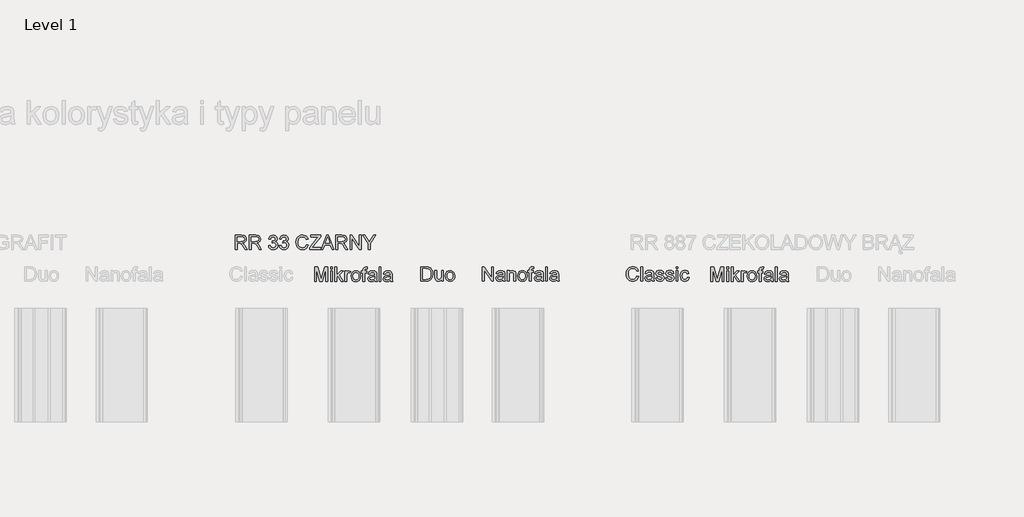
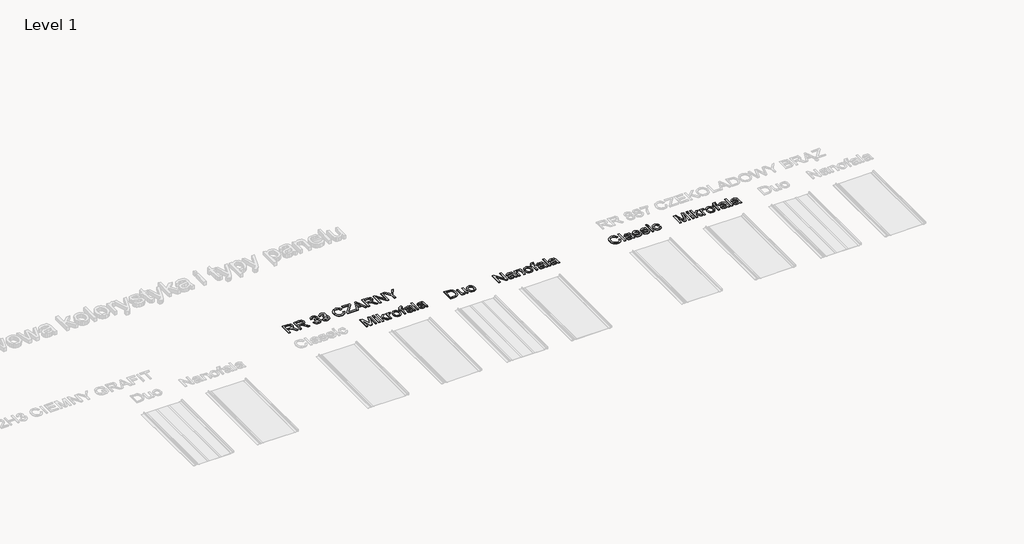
# One storey, part 19 of 22: 6 proxies.
"""IFC4 building model written with IfcOpenShell, lengths in millimetres."""

from ifc_helpers import new_model, si_unit, frame, origin, place, context, project, spatial, polyline, outline, extrude, element, save

model = new_model("IFC4")

# Units and contexts
model_context = context("Model", 3, world=origin())
ifc_project = project(units=[si_unit("LENGTHUNIT", "METRE", prefix="MILLI")], contexts=[model_context])

# Site, building, storey
site = spatial("IfcSite", under=ifc_project)
building = spatial("IfcBuilding", under=site)
storey = spatial("IfcBuildingStorey", under=building, Name="Level 1", Elevation=0.0)

# Proxies
placement = place(None, origin())
element("IfcBuildingElementProxy", 1, Name="150", ObjectType="150", at=placement, inside=storey, context=model_context, shape_type="SweptSolid", body=[
    extrude(outline(polyline([(-3695.6654959, 1124.718613), (-3695.6654959, 1275.4030782), (-3663.3654568, 1275.4030782), (-3632.4633692, 1169.1955462), (-3626.2093753, 1147.0122619), (-3619.4771347, 1171.0349562), (-3589.1636583, 1275.4030782), (-3556.7532546, 1275.4030782), (-3556.7532546, 1124.718613), (-3575.5888127, 1124.718613), (-3575.5888127, 1256.5675201), (-3613.44387, 1124.718613), (-3638.9380923, 1124.718613), (-3676.8299378, 1256.5675201), (-3676.8299378, 1124.718613), (-3695.6654959, 1124.718613)])), frame((0.0, 0.0, 600.0), z_axis=(0.0, 0.0, 1.0), x_axis=(1.0, 0.0, 0.0)), (0.0, 0.0, 1.0), 10.0),
    extrude(outline(polyline([(-3526.1454726, 1256.5675201), (-3526.1454726, 1275.4030782), (-3507.3099144, 1275.4030782), (-3507.3099144, 1256.5675201), (-3526.1454726, 1256.5675201)])), frame((0.0, 0.0, 600.0), z_axis=(0.0, 0.0, 1.0), x_axis=(1.0, 0.0, 0.0)), (0.0, 0.0, 1.0), 10.0),
    extrude(outline(polyline([(-3526.1454726, 1124.718613), (-3526.1454726, 1235.3775171), (-3507.3099144, 1235.3775171), (-3507.3099144, 1124.718613), (-3526.1454726, 1124.718613)])), frame((0.0, 0.0, 600.0), z_axis=(0.0, 0.0, 1.0), x_axis=(1.0, 0.0, 0.0)), (0.0, 0.0, 1.0), 10.0),
    extrude(outline(polyline([(-3479.0565772, 1124.718613), (-3479.0565772, 1275.4030782), (-3460.221019, 1275.4030782), (-3460.221019, 1194.4322511), (-3417.988166, 1235.3775171), (-3391.9421207, 1235.3775171), (-3434.7267968, 1193.9172163), (-3389.587676, 1124.718613), (-3411.5870193, 1124.718613), (-3448.228066, 1180.8206173), (-3460.221019, 1169.158758), (-3460.221019, 1124.718613), (-3479.0565772, 1124.718613)])), frame((0.0, 0.0, 600.0), z_axis=(0.0, 0.0, 1.0), x_axis=(1.0, 0.0, 0.0)), (0.0, 0.0, 1.0), 10.0),
    extrude(outline(polyline([(-3373.1065626, 1124.718613), (-3373.1065626, 1235.3775171), (-3356.6254492, 1235.3775171), (-3356.6254492, 1219.0067684), (-3344.9268017, 1234.0899302), (-3333.1545779, 1237.7319619), (-3314.2454433, 1231.9194264), (-3320.5362255, 1215.0336428), (-3333.7799773, 1218.8964038), (-3344.4301611, 1215.1807956), (-3351.2175839, 1204.8800997), (-3354.2710044, 1182.8807564), (-3354.2710044, 1124.718613), (-3373.1065626, 1124.718613)])), frame((0.0, 0.0, 600.0), z_axis=(0.0, 0.0, 1.0), x_axis=(1.0, 0.0, 0.0)), (0.0, 0.0, 1.0), 10.0),
    extrude(outline(polyline([(-3307.182109, 1180.0480651), (-3303.1078159, 1206.7287068), (-3290.8849367, 1225.4814915), (-3275.7833808, 1234.6693443), (-3257.7019807, 1237.7319619), (-3237.9145279, 1234.0025582), (-3222.1093977, 1222.814347), (-3211.748921, 1205.0502452), (-3208.2954287, 1181.5931694), (-3209.822139, 1162.5644732), (-3214.4022699, 1148.0791197), (-3221.902464, 1137.2311993), (-3232.1893643, 1129.1148028), (-3244.4076451, 1124.0518269), (-3257.7019807, 1122.3641682), (-3277.7285568, 1126.0797764), (-3293.5152929, 1137.2266008), (-3303.765405, 1155.3631832), (-3307.182109, 1180.0480651)]), holes=[polyline([(-3288.3465509, 1180.0848533), (-3286.1668501, 1163.0381213), (-3279.6277476, 1150.8934169), (-3269.7869042, 1143.623149), (-3257.7019807, 1141.1997264), (-3245.6722394, 1143.6369446), (-3235.8497902, 1150.9485992), (-3229.3106877, 1163.254252), (-3227.1309869, 1180.6734645), (-3229.3244833, 1197.2235557), (-3235.9049725, 1209.2027132), (-3245.7412173, 1216.4729811), (-3257.7019807, 1218.8964038), (-3269.7869042, 1216.4821782), (-3279.6277476, 1209.2395014), (-3286.1668501, 1197.1223882), (-3288.3465509, 1180.0848533)])]), frame((0.0, 0.0, 600.0), z_axis=(0.0, 0.0, 1.0), x_axis=(1.0, 0.0, 0.0)), (0.0, 0.0, 1.0), 10.0),
    extrude(outline(polyline([(-3182.3965363, 1124.718613), (-3182.3965363, 1216.541959), (-3198.8776497, 1216.541959), (-3198.8776497, 1235.3775171), (-3182.3965363, 1235.3775171), (-3182.3965363, 1246.5243416), (-3180.4099735, 1262.2329028), (-3170.7714652, 1273.4533036), (-3151.7887543, 1277.757523), (-3134.6086651, 1275.6973838), (-3137.3677801, 1258.039048), (-3148.2202989, 1258.9219648), (-3160.0844933, 1255.7949679), (-3163.5609781, 1244.1331086), (-3163.5609781, 1235.3775171), (-3142.3709752, 1235.3775171), (-3142.3709752, 1216.541959), (-3163.5609781, 1216.541959), (-3163.5609781, 1124.718613), (-3182.3965363, 1124.718613)])), frame((0.0, 0.0, 600.0), z_axis=(0.0, 0.0, 1.0), x_axis=(1.0, 0.0, 0.0)), (0.0, 0.0, 1.0), 10.0),
    extrude(outline(polyline([(-3055.2565187, 1138.8452816), (-3073.5218598, 1126.0797764), (-3093.7001872, 1122.3641682), (-3109.4409381, 1124.5990513), (-3121.0522136, 1131.3037007), (-3128.2121169, 1141.4848349), (-3130.5987514, 1154.1491726), (-3126.9935078, 1169.0483934), (-3117.5205464, 1179.8641241), (-3104.3319769, 1186.0445416), (-3088.0348045, 1188.8772329), (-3055.3668833, 1195.3519561), (-3055.2565187, 1199.5458108), (-3056.5533028, 1207.9519144), (-3060.4436549, 1213.4517502), (-3069.1440641, 1217.5352404), (-3081.2657758, 1218.8964038), (-3100.3220632, 1215.2727661), (-3109.4087484, 1202.4152904), (-3128.2443066, 1204.7697351), (-3120.0957204, 1223.1638349), (-3103.6881834, 1233.9427774), (-3078.8377546, 1237.7319619), (-3056.0106768, 1234.3842357), (-3043.1164129, 1225.9781322), (-3037.3406656, 1213.1942328), (-3036.4209606, 1196.7131194), (-3036.4209606, 1173.2790364), (-3035.4644674, 1140.5559329), (-3031.7120711, 1124.718613), (-3050.5476292, 1124.718613), (-3055.2565187, 1138.8452816)]), holes=[polyline([(-3055.2565187, 1176.5163979), (-3085.6435715, 1170.7406506), (-3101.8487734, 1167.68723), (-3109.1880192, 1162.7208231), (-3111.7631932, 1155.4735478), (-3106.1529928, 1145.2832165), (-3089.6902735, 1141.1997264), (-3070.6339861, 1145.7062808), (-3058.3467275, 1156.613982), (-3055.3668833, 1171.182109), (-3055.2565187, 1176.5163979)])]), frame((0.0, 0.0, 600.0), z_axis=(0.0, 0.0, 1.0), x_axis=(1.0, 0.0, 0.0)), (0.0, 0.0, 1.0), 10.0),
    extrude(outline(polyline([(-3010.5220681, 1124.718613), (-3010.5220681, 1275.4030782), (-2991.68651, 1275.4030782), (-2991.68651, 1124.718613), (-3010.5220681, 1124.718613)])), frame((0.0, 0.0, 600.0), z_axis=(0.0, 0.0, 1.0), x_axis=(1.0, 0.0, 0.0)), (0.0, 0.0, 1.0), 10.0),
    extrude(outline(polyline([(-2892.7998297, 1138.8452816), (-2911.0651707, 1126.0797764), (-2931.2434982, 1122.3641682), (-2946.984249, 1124.5990513), (-2958.5955245, 1131.3037007), (-2965.7554278, 1141.4848349), (-2968.1420623, 1154.1491726), (-2964.5368187, 1169.0483934), (-2955.0638574, 1179.8641241), (-2941.8752878, 1186.0445416), (-2925.5781154, 1188.8772329), (-2892.9101943, 1195.3519561), (-2892.7998297, 1199.5458108), (-2894.0966137, 1207.9519144), (-2897.9869658, 1213.4517502), (-2906.687375, 1217.5352404), (-2918.8090867, 1218.8964038), (-2937.8653741, 1215.2727661), (-2946.9520594, 1202.4152904), (-2965.7876175, 1204.7697351), (-2957.6390313, 1223.1638349), (-2941.2314943, 1233.9427774), (-2916.3810656, 1237.7319619), (-2893.5539878, 1234.3842357), (-2880.6597238, 1225.9781322), (-2874.8839765, 1213.1942328), (-2873.9642715, 1196.7131194), (-2873.9642715, 1173.2790364), (-2873.0077783, 1140.5559329), (-2869.255382, 1124.718613), (-2888.0909401, 1124.718613), (-2892.7998297, 1138.8452816)]), holes=[polyline([(-2892.7998297, 1176.5163979), (-2923.1868825, 1170.7406506), (-2939.3920844, 1167.68723), (-2946.7313302, 1162.7208231), (-2949.3065041, 1155.4735478), (-2943.6963037, 1145.2832165), (-2927.2335844, 1141.1997264), (-2908.1772971, 1145.7062808), (-2895.8900384, 1156.613982), (-2892.9101943, 1171.182109), (-2892.7998297, 1176.5163979)])]), frame((0.0, 0.0, 600.0), z_axis=(0.0, 0.0, 1.0), x_axis=(1.0, 0.0, 0.0)), (0.0, 0.0, 1.0), 10.0),
])
element("IfcBuildingElementProxy", 2, Name="150", ObjectType="150", at=placement, inside=storey, context=model_context, shape_type="SweptSolid", body=[
    extrude(outline(polyline([(-2567.5807075, 1127.8407532), (-2567.5807075, 1278.5252184), (-2515.5989816, 1278.5252184), (-2488.7068077, 1276.3547147), (-2466.5603116, 1265.5757722), (-2456.1400541, 1254.097854), (-2448.7180349, 1239.8240325), (-2444.2758598, 1223.0302195), (-2442.7951347, 1203.9923262), (-2446.8050485, 1173.5868793), (-2457.1057443, 1151.6427183), (-2470.864531, 1137.9759022), (-2488.8723546, 1130.4159272), (-2513.097384, 1127.8407532), (-2567.5807075, 1127.8407532)]), holes=[polyline([(-2548.7451493, 1146.6763114), (-2515.4150406, 1146.6763114), (-2491.1716171, 1149.3986381), (-2477.1921013, 1157.0873718), (-2465.7325771, 1175.7941713), (-2461.6306929, 1204.2866318), (-2463.6402483, 1224.8144471), (-2469.6689145, 1239.9711853), (-2478.5762573, 1250.3822458), (-2489.2218425, 1256.6730279), (-2515.9300754, 1259.6896603), (-2548.7451493, 1259.6896603), (-2548.7451493, 1146.6763114)])]), frame((0.0, 0.0, 600.0), z_axis=(0.0, 0.0, 1.0), x_axis=(1.0, 0.0, 0.0)), (0.0, 0.0, 1.0), 10.0),
    extrude(outline(polyline([(-2348.617344, 1127.8407532), (-2348.617344, 1146.8602524), (-2363.369412, 1130.8297944), (-2382.6096403, 1125.4863084), (-2400.3231584, 1129.2387048), (-2412.5368406, 1138.6564839), (-2418.1470411, 1152.5256351), (-2419.250687, 1170.0368181), (-2419.250687, 1238.4996574), (-2400.4151289, 1238.4996574), (-2400.4151289, 1178.9027741), (-2399.2746947, 1159.699334), (-2391.8250843, 1148.4237508), (-2377.7903862, 1144.3218666), (-2362.0634309, 1148.5157213), (-2351.6707645, 1159.9384573), (-2348.617344, 1180.9261251), (-2348.617344, 1238.4996574), (-2329.7817858, 1238.4996574), (-2329.7817858, 1127.8407532), (-2348.617344, 1127.8407532)])), frame((0.0, 0.0, 600.0), z_axis=(0.0, 0.0, 1.0), x_axis=(1.0, 0.0, 0.0)), (0.0, 0.0, 1.0), 10.0),
    extrude(outline(polyline([(-2308.5917829, 1183.1702053), (-2304.5174898, 1209.850847), (-2292.2946105, 1228.6036317), (-2277.1930546, 1237.7914845), (-2259.1116545, 1240.8541021), (-2239.3242017, 1237.1246984), (-2223.5190715, 1225.9364872), (-2213.1585948, 1208.1723854), (-2209.7051026, 1184.7153097), (-2211.2318129, 1165.6866135), (-2215.8119437, 1151.2012599), (-2223.3121379, 1140.3533396), (-2233.5990382, 1132.2369431), (-2245.8173189, 1127.1739671), (-2259.1116545, 1125.4863084), (-2279.1382307, 1129.2019166), (-2294.9249668, 1140.348741), (-2305.1750789, 1158.4853234), (-2308.5917829, 1183.1702053)]), holes=[polyline([(-2289.7562247, 1183.2069935), (-2287.5765239, 1166.1602615), (-2281.0374215, 1154.0155572), (-2271.1965781, 1146.7452892), (-2259.1116545, 1144.3218666), (-2247.0819133, 1146.7590848), (-2237.259464, 1154.0707395), (-2230.7203616, 1166.3763922), (-2228.5406607, 1183.7956047), (-2230.7341571, 1200.3456959), (-2237.3146463, 1212.3248534), (-2247.1508912, 1219.5951213), (-2259.1116545, 1222.018544), (-2271.1965781, 1219.6043184), (-2281.0374215, 1212.3616416), (-2287.5765239, 1200.2445284), (-2289.7562247, 1183.2069935)])]), frame((0.0, 0.0, 600.0), z_axis=(0.0, 0.0, 1.0), x_axis=(1.0, 0.0, 0.0)), (0.0, 0.0, 1.0), 10.0),
])
element("IfcBuildingElementProxy", 3, Name="150", ObjectType="150", at=placement, inside=storey, context=model_context, shape_type="SweptSolid", body=[
    extrude(outline(polyline([(-279.0085992, 1182.8181359), (-260.1730411, 1177.9620936), (-268.8642532, 1156.013334), (-282.5034782, 1139.9782776), (-300.4193314, 1130.1696239), (-321.9404281, 1126.9000726), (-343.7880201, 1129.3740791), (-361.1382547, 1136.7960983), (-374.4371888, 1148.908613), (-384.1308794, 1165.4541057), (-390.049181, 1184.9058662), (-392.0219482, 1205.7371842), (-389.7916636, 1227.7089364), (-383.1008098, 1246.6824503), (-372.2988747, 1262.0553191), (-357.7353462, 1273.2251362), (-340.4632865, 1280.0263546), (-321.5357579, 1282.2934274), (-300.8837824, 1279.3595685), (-283.8094593, 1270.5579918), (-270.8462175, 1256.4313231), (-262.5274859, 1237.5221886), (-281.363044, 1233.0340282), (-287.8929494, 1246.7698222), (-296.8140878, 1256.1921998), (-308.2368238, 1261.6414519), (-322.2715219, 1263.4578692), (-338.4491326, 1261.4437153), (-351.7388697, 1255.4012536), (-361.8234349, 1245.9650804), (-368.38553, 1233.7697922), (-373.18639, 1205.7739724), (-371.7654458, 1188.373154), (-367.5026132, 1173.3267804), (-360.2369438, 1161.2096672), (-349.8074892, 1152.59663), (-337.3040999, 1147.4508806), (-323.8166263, 1145.7356308), (-308.0942695, 1148.0716815), (-294.9930719, 1155.0798335), (-285.1016448, 1166.6865104), (-279.0085992, 1182.8181359)])), frame((0.0, 0.0, 600.0), z_axis=(0.0, 0.0, 1.0), x_axis=(1.0, 0.0, 0.0)), (0.0, 0.0, 1.0), 10.0),
    extrude(outline(polyline([(-236.6285934, 1129.2545174), (-236.6285934, 1279.9389826), (-217.7930352, 1279.9389826), (-217.7930352, 1129.2545174), (-236.6285934, 1129.2545174)])), frame((0.0, 0.0, 600.0), z_axis=(0.0, 0.0, 1.0), x_axis=(1.0, 0.0, 0.0)), (0.0, 0.0, 1.0), 10.0),
    extrude(outline(polyline([(-118.9063549, 1143.381186), (-137.171696, 1130.6156808), (-157.3500234, 1126.9000726), (-173.0907743, 1129.1349558), (-184.7020498, 1135.8396051), (-191.8619531, 1146.0207393), (-194.2485875, 1158.685077), (-190.643344, 1173.5842978), (-181.1703826, 1184.4000285), (-167.9818131, 1190.580446), (-151.6846407, 1193.4131374), (-119.0167195, 1199.8878605), (-118.9063549, 1204.0817152), (-120.203139, 1212.4878188), (-124.0934911, 1217.9876546), (-132.7939003, 1222.0711448), (-144.915612, 1223.4323082), (-163.9718993, 1219.8086705), (-173.0585846, 1206.9511948), (-191.8941428, 1209.3056396), (-183.7455566, 1227.6997393), (-167.3380196, 1238.4786818), (-142.4875908, 1242.2678663), (-119.660513, 1238.9201402), (-106.7662491, 1230.5140366), (-100.9905018, 1217.7301372), (-100.0707968, 1201.2490239), (-100.0707968, 1177.8149408), (-99.1143036, 1145.0918373), (-95.3619072, 1129.2545174), (-114.1974654, 1129.2545174), (-118.9063549, 1143.381186)]), holes=[polyline([(-118.9063549, 1181.0523023), (-149.2934077, 1175.276555), (-165.4986096, 1172.2231344), (-172.8378554, 1167.2567275), (-175.4130294, 1160.0094522), (-169.802829, 1149.8191209), (-153.3401097, 1145.7356308), (-134.2838223, 1150.2421852), (-121.9965637, 1161.1498864), (-119.0167195, 1175.7180134), (-118.9063549, 1181.0523023)])]), frame((0.0, 0.0, 600.0), z_axis=(0.0, 0.0, 1.0), x_axis=(1.0, 0.0, 0.0)), (0.0, 0.0, 1.0), 10.0),
    extrude(outline(polyline([(-81.2352386, 1162.2167442), (-62.3996805, 1164.5711889), (-59.4290334, 1156.5145732), (-53.6808772, 1150.5916731), (-33.7048849, 1145.7356308), (-14.5014447, 1150.1870029), (-8.2474508, 1160.6348516), (-9.8201463, 1165.4357116), (-14.5382329, 1169.0961375), (-33.9256141, 1174.4672146), (-62.2893159, 1183.6826586), (-74.668545, 1194.4432069), (-78.8807939, 1209.6367334), (-75.4962795, 1223.6714315), (-66.2624414, 1234.3951916), (-54.2878825, 1239.9686039), (-38.0826806, 1242.2678663), (-15.1636323, 1238.5706523), (-0.5955053, 1228.564262), (5.8792178, 1211.6600843), (-12.9563403, 1209.3056396), (-20.0380687, 1219.6983059), (-36.6111526, 1223.4323082), (-54.6373704, 1219.8638528), (-60.0452357, 1211.5497197), (-57.8011555, 1206.068278), (-50.7746094, 1201.9112115), (-34.5510134, 1197.9012977), (-6.9046815, 1189.0353416), (5.9344001, 1178.9921632), (10.5881074, 1162.6214144), (5.1250597, 1144.5951966), (-10.6386838, 1131.5169917), (-33.9624023, 1126.9000726), (-52.9543103, 1129.1257587), (-66.8142644, 1135.8028169), (-76.0664966, 1146.8576709), (-81.2352386, 1162.2167442)])), frame((0.0, 0.0, 600.0), z_axis=(0.0, 0.0, 1.0), x_axis=(1.0, 0.0, 0.0)), (0.0, 0.0, 1.0), 10.0),
    extrude(outline(polyline([(24.714776, 1162.2167442), (43.5503341, 1164.5711889), (46.5209812, 1156.5145732), (52.2691374, 1150.5916731), (72.2451298, 1145.7356308), (91.4485699, 1150.1870029), (97.7025638, 1160.6348516), (96.1298683, 1165.4357116), (91.4117817, 1169.0961375), (72.0244006, 1174.4672146), (43.6606987, 1183.6826586), (31.2814696, 1194.4432069), (27.0692207, 1209.6367334), (30.4537351, 1223.6714315), (39.6875732, 1234.3951916), (51.6621321, 1239.9686039), (67.867334, 1242.2678663), (90.7863823, 1238.5706523), (105.3545093, 1228.564262), (111.8292324, 1211.6600843), (92.9936743, 1209.3056396), (85.9119459, 1219.6983059), (69.338862, 1223.4323082), (51.3126442, 1219.8638528), (45.9047789, 1211.5497197), (48.1488591, 1206.068278), (55.1754052, 1201.9112115), (71.3990012, 1197.9012977), (99.0453331, 1189.0353416), (111.8844147, 1178.9921632), (116.538122, 1162.6214144), (111.0750743, 1144.5951966), (95.3113309, 1131.5169917), (71.9876124, 1126.9000726), (52.9957044, 1129.1257587), (39.1357502, 1135.8028169), (29.883518, 1146.8576709), (24.714776, 1162.2167442)])), frame((0.0, 0.0, 600.0), z_axis=(0.0, 0.0, 1.0), x_axis=(1.0, 0.0, 0.0)), (0.0, 0.0, 1.0), 10.0),
    extrude(outline(polyline([(137.7281249, 1261.1034245), (137.7281249, 1279.9389826), (156.5636831, 1279.9389826), (156.5636831, 1261.1034245), (137.7281249, 1261.1034245)])), frame((0.0, 0.0, 600.0), z_axis=(0.0, 0.0, 1.0), x_axis=(1.0, 0.0, 0.0)), (0.0, 0.0, 1.0), 10.0),
    extrude(outline(polyline([(137.7281249, 1129.2545174), (137.7281249, 1239.9134216), (156.5636831, 1239.9134216), (156.5636831, 1129.2545174), (137.7281249, 1129.2545174)])), frame((0.0, 0.0, 600.0), z_axis=(0.0, 0.0, 1.0), x_axis=(1.0, 0.0, 0.0)), (0.0, 0.0, 1.0), 10.0),
    extrude(outline(polyline([(255.4503634, 1169.2800785), (274.2859215, 1166.9256337), (269.034406, 1150.1732074), (259.1659715, 1137.5134682), (245.60952, 1129.5534215), (229.2939535, 1126.9000726), (209.2581803, 1130.6018852), (193.5910059, 1141.7073229), (183.4788495, 1159.7289422), (180.1081307, 1184.1792993), (181.547469, 1200.9409227), (185.865484, 1215.467663), (193.1311534, 1227.1985001), (203.4134551, 1235.572414), (215.7145094, 1240.5940032), (229.0364361, 1242.2678663), (244.9519309, 1239.9686039), (257.6760494, 1233.0708164), (266.8041214, 1221.9423861), (271.9314767, 1206.9511948), (253.0959186, 1204.59675), (244.3587212, 1218.7050245), (229.1835889, 1223.4323082), (217.0112934, 1221.1054546), (207.3497925, 1214.1248937), (201.0452148, 1202.1135465), (198.9436889, 1184.6943341), (200.9992295, 1167.0405968), (207.1658515, 1154.987863), (216.6526084, 1148.0486888), (228.6685541, 1145.7356308), (238.4220255, 1147.1795676), (246.4188604, 1151.5113781), (252.2359944, 1158.8414269), (255.4503634, 1169.2800785)])), frame((0.0, 0.0, 600.0), z_axis=(0.0, 0.0, 1.0), x_axis=(1.0, 0.0, 0.0)), (0.0, 0.0, 1.0), 10.0),
])
element("IfcBuildingElementProxy", 4, Name="150", ObjectType="150", at=placement, inside=storey, context=model_context, shape_type="SweptSolid", body=[
    extrude(outline(polyline([(504.3345041, 1124.718613), (504.3345041, 1275.4030782), (536.6345432, 1275.4030782), (567.5366308, 1169.1955462), (573.7906247, 1147.0122619), (580.5228653, 1171.0349562), (610.8363417, 1275.4030782), (643.2467454, 1275.4030782), (643.2467454, 1124.718613), (624.4111873, 1124.718613), (624.4111873, 1256.5675201), (586.55613, 1124.718613), (561.0619077, 1124.718613), (523.1700622, 1256.5675201), (523.1700622, 1124.718613), (504.3345041, 1124.718613)])), frame((0.0, 0.0, 600.0), z_axis=(0.0, 0.0, 1.0), x_axis=(1.0, 0.0, 0.0)), (0.0, 0.0, 1.0), 10.0),
    extrude(outline(polyline([(673.8545274, 1256.5675201), (673.8545274, 1275.4030782), (692.6900856, 1275.4030782), (692.6900856, 1256.5675201), (673.8545274, 1256.5675201)])), frame((0.0, 0.0, 600.0), z_axis=(0.0, 0.0, 1.0), x_axis=(1.0, 0.0, 0.0)), (0.0, 0.0, 1.0), 10.0),
    extrude(outline(polyline([(673.8545274, 1124.718613), (673.8545274, 1235.3775171), (692.6900856, 1235.3775171), (692.6900856, 1124.718613), (673.8545274, 1124.718613)])), frame((0.0, 0.0, 600.0), z_axis=(0.0, 0.0, 1.0), x_axis=(1.0, 0.0, 0.0)), (0.0, 0.0, 1.0), 10.0),
    extrude(outline(polyline([(720.9434228, 1124.718613), (720.9434228, 1275.4030782), (739.778981, 1275.4030782), (739.778981, 1194.4322511), (782.011834, 1235.3775171), (808.0578793, 1235.3775171), (765.2732032, 1193.9172163), (810.412324, 1124.718613), (788.4129807, 1124.718613), (751.771934, 1180.8206173), (739.778981, 1169.158758), (739.778981, 1124.718613), (720.9434228, 1124.718613)])), frame((0.0, 0.0, 600.0), z_axis=(0.0, 0.0, 1.0), x_axis=(1.0, 0.0, 0.0)), (0.0, 0.0, 1.0), 10.0),
    extrude(outline(polyline([(826.8934374, 1124.718613), (826.8934374, 1235.3775171), (843.3745508, 1235.3775171), (843.3745508, 1219.0067684), (855.0731983, 1234.0899302), (866.8454221, 1237.7319619), (885.7545567, 1231.9194264), (879.4637745, 1215.0336428), (866.2200227, 1218.8964038), (855.5698389, 1215.1807956), (848.7824161, 1204.8800997), (845.7289956, 1182.8807564), (845.7289956, 1124.718613), (826.8934374, 1124.718613)])), frame((0.0, 0.0, 600.0), z_axis=(0.0, 0.0, 1.0), x_axis=(1.0, 0.0, 0.0)), (0.0, 0.0, 1.0), 10.0),
    extrude(outline(polyline([(892.817891, 1180.0480651), (896.8921841, 1206.7287068), (909.1150633, 1225.4814915), (924.2166192, 1234.6693443), (942.2980193, 1237.7319619), (962.0854721, 1234.0025582), (977.8906023, 1222.814347), (988.251079, 1205.0502452), (991.7045713, 1181.5931694), (990.177861, 1162.5644732), (985.5977301, 1148.0791197), (978.097536, 1137.2311993), (967.8106357, 1129.1148028), (955.5923549, 1124.0518269), (942.2980193, 1122.3641682), (922.2714432, 1126.0797764), (906.4847071, 1137.2266008), (896.234595, 1155.3631832), (892.817891, 1180.0480651)]), holes=[polyline([(911.6534491, 1180.0848533), (913.8331499, 1163.0381213), (920.3722524, 1150.8934169), (930.2130958, 1143.623149), (942.2980193, 1141.1997264), (954.3277606, 1143.6369446), (964.1502098, 1150.9485992), (970.6893123, 1163.254252), (972.8690131, 1180.6734645), (970.6755167, 1197.2235557), (964.0950275, 1209.2027132), (954.2587827, 1216.4729811), (942.2980193, 1218.8964038), (930.2130958, 1216.4821782), (920.3722524, 1209.2395014), (913.8331499, 1197.1223882), (911.6534491, 1180.0848533)])]), frame((0.0, 0.0, 600.0), z_axis=(0.0, 0.0, 1.0), x_axis=(1.0, 0.0, 0.0)), (0.0, 0.0, 1.0), 10.0),
    extrude(outline(polyline([(1017.6034637, 1124.718613), (1017.6034637, 1216.541959), (1001.1223503, 1216.541959), (1001.1223503, 1235.3775171), (1017.6034637, 1235.3775171), (1017.6034637, 1246.5243416), (1019.5900265, 1262.2329028), (1029.2285348, 1273.4533036), (1048.2112457, 1277.757523), (1065.3913349, 1275.6973838), (1062.6322199, 1258.039048), (1051.7797011, 1258.9219648), (1039.9155067, 1255.7949679), (1036.4390219, 1244.1331086), (1036.4390219, 1235.3775171), (1057.6290248, 1235.3775171), (1057.6290248, 1216.541959), (1036.4390219, 1216.541959), (1036.4390219, 1124.718613), (1017.6034637, 1124.718613)])), frame((0.0, 0.0, 600.0), z_axis=(0.0, 0.0, 1.0), x_axis=(1.0, 0.0, 0.0)), (0.0, 0.0, 1.0), 10.0),
    extrude(outline(polyline([(1144.7434813, 1138.8452816), (1126.4781402, 1126.0797764), (1106.2998128, 1122.3641682), (1090.5590619, 1124.5990513), (1078.9477864, 1131.3037007), (1071.7878831, 1141.4848349), (1069.4012486, 1154.1491726), (1073.0064922, 1169.0483934), (1082.4794536, 1179.8641241), (1095.6680231, 1186.0445416), (1111.9651955, 1188.8772329), (1144.6331167, 1195.3519561), (1144.7434813, 1199.5458108), (1143.4466972, 1207.9519144), (1139.5563451, 1213.4517502), (1130.8559359, 1217.5352404), (1118.7342242, 1218.8964038), (1099.6779368, 1215.2727661), (1090.5912516, 1202.4152904), (1071.7556934, 1204.7697351), (1079.9042796, 1223.1638349), (1096.3118166, 1233.9427774), (1121.1622454, 1237.7319619), (1143.9893232, 1234.3842357), (1156.8835871, 1225.9781322), (1162.6593344, 1213.1942328), (1163.5790394, 1196.7131194), (1163.5790394, 1173.2790364), (1164.5355326, 1140.5559329), (1168.2879289, 1124.718613), (1149.4523708, 1124.718613), (1144.7434813, 1138.8452816)]), holes=[polyline([(1144.7434813, 1176.5163979), (1114.3564285, 1170.7406506), (1098.1512266, 1167.68723), (1090.8119808, 1162.7208231), (1088.2368068, 1155.4735478), (1093.8470072, 1145.2832165), (1110.3097265, 1141.1997264), (1129.3660139, 1145.7062808), (1141.6532725, 1156.613982), (1144.6331167, 1171.182109), (1144.7434813, 1176.5163979)])]), frame((0.0, 0.0, 600.0), z_axis=(0.0, 0.0, 1.0), x_axis=(1.0, 0.0, 0.0)), (0.0, 0.0, 1.0), 10.0),
    extrude(outline(polyline([(1189.4779319, 1124.718613), (1189.4779319, 1275.4030782), (1208.31349, 1275.4030782), (1208.31349, 1124.718613), (1189.4779319, 1124.718613)])), frame((0.0, 0.0, 600.0), z_axis=(0.0, 0.0, 1.0), x_axis=(1.0, 0.0, 0.0)), (0.0, 0.0, 1.0), 10.0),
    extrude(outline(polyline([(1307.2001703, 1138.8452816), (1288.9348293, 1126.0797764), (1268.7565018, 1122.3641682), (1253.015751, 1124.5990513), (1241.4044755, 1131.3037007), (1234.2445722, 1141.4848349), (1231.8579377, 1154.1491726), (1235.4631813, 1169.0483934), (1244.9361426, 1179.8641241), (1258.1247122, 1186.0445416), (1274.4218846, 1188.8772329), (1307.0898057, 1195.3519561), (1307.2001703, 1199.5458108), (1305.9033863, 1207.9519144), (1302.0130342, 1213.4517502), (1293.312625, 1217.5352404), (1281.1909133, 1218.8964038), (1262.1346259, 1215.2727661), (1253.0479406, 1202.4152904), (1234.2123825, 1204.7697351), (1242.3609687, 1223.1638349), (1258.7685057, 1233.9427774), (1283.6189344, 1237.7319619), (1306.4460122, 1234.3842357), (1319.3402762, 1225.9781322), (1325.1160235, 1213.1942328), (1326.0357285, 1196.7131194), (1326.0357285, 1173.2790364), (1326.9922217, 1140.5559329), (1330.744618, 1124.718613), (1311.9090599, 1124.718613), (1307.2001703, 1138.8452816)]), holes=[polyline([(1307.2001703, 1176.5163979), (1276.8131175, 1170.7406506), (1260.6079156, 1167.68723), (1253.2686698, 1162.7208231), (1250.6934959, 1155.4735478), (1256.3036963, 1145.2832165), (1272.7664156, 1141.1997264), (1291.8227029, 1145.7062808), (1304.1099616, 1156.613982), (1307.0898057, 1171.182109), (1307.2001703, 1176.5163979)])]), frame((0.0, 0.0, 600.0), z_axis=(0.0, 0.0, 1.0), x_axis=(1.0, 0.0, 0.0)), (0.0, 0.0, 1.0), 10.0),
])
element("IfcBuildingElementProxy", 5, Name="150", ObjectType="150", at=placement, inside=storey, context=model_context, shape_type="SweptSolid", body=[
    extrude(outline(polyline([(-1916.7806572, 1127.8407532), (-1916.7806572, 1278.5252184), (-1896.6207239, 1278.5252184), (-1817.8939769, 1159.147511), (-1817.8939769, 1278.5252184), (-1799.0584188, 1278.5252184), (-1799.0584188, 1127.8407532), (-1819.2183521, 1127.8407532), (-1897.9450991, 1247.2552488), (-1897.9450991, 1127.8407532), (-1916.7806572, 1127.8407532)])), frame((0.0, 0.0, 600.0), z_axis=(0.0, 0.0, 1.0), x_axis=(1.0, 0.0, 0.0)), (0.0, 0.0, 1.0), 10.0),
    extrude(outline(polyline([(-1697.8172937, 1141.9674218), (-1716.0826347, 1129.2019166), (-1736.2609622, 1125.4863084), (-1752.001713, 1127.7211916), (-1763.6129885, 1134.4258409), (-1770.7728919, 1144.6069751), (-1773.1595263, 1157.2713128), (-1769.5542827, 1172.1705336), (-1760.0813214, 1182.9862643), (-1746.8927518, 1189.1666818), (-1730.5955795, 1191.9993732), (-1697.9276583, 1198.4740963), (-1697.8172937, 1202.667951), (-1699.1140777, 1211.0740546), (-1703.0044298, 1216.5738904), (-1711.704839, 1220.6573806), (-1723.8265507, 1222.018544), (-1742.8828381, 1218.3949063), (-1751.9695234, 1205.5374306), (-1770.8050815, 1207.8918754), (-1762.6564953, 1226.2859751), (-1746.2489583, 1237.0649176), (-1721.3985296, 1240.8541021), (-1698.5714518, 1237.506376), (-1685.6771878, 1229.1002724), (-1679.9014405, 1216.316373), (-1678.9817355, 1199.8352597), (-1678.9817355, 1176.4011766), (-1678.0252423, 1143.6780731), (-1674.272846, 1127.8407532), (-1693.1084041, 1127.8407532), (-1697.8172937, 1141.9674218)]), holes=[polyline([(-1697.8172937, 1179.6385381), (-1728.2043465, 1173.8627908), (-1744.4095484, 1170.8093702), (-1751.7487942, 1165.8429633), (-1754.3239681, 1158.595688), (-1748.7137677, 1148.4053567), (-1732.2510484, 1144.3218666), (-1713.1947611, 1148.828421), (-1700.9075024, 1159.7361222), (-1697.9276583, 1174.3042492), (-1697.8172937, 1179.6385381)])]), frame((0.0, 0.0, 600.0), z_axis=(0.0, 0.0, 1.0), x_axis=(1.0, 0.0, 0.0)), (0.0, 0.0, 1.0), 10.0),
    extrude(outline(polyline([(-1653.0828431, 1127.8407532), (-1653.0828431, 1238.4996574), (-1634.2472849, 1238.4996574), (-1634.2472849, 1223.0486136), (-1619.8447048, 1236.40273), (-1600.1814122, 1240.8541021), (-1582.3943177, 1237.2672527), (-1570.2542119, 1227.8494736), (-1564.6072232, 1213.9987165), (-1563.6139418, 1195.7885577), (-1563.6139418, 1127.8407532), (-1582.4495, 1127.8407532), (-1582.4495, 1193.250172), (-1584.6200038, 1209.9152263), (-1592.2903434, 1218.7260001), (-1605.2213955, 1222.018544), (-1616.2532568, 1220.1699369), (-1625.6572403, 1214.6241159), (-1632.0997738, 1203.9095528), (-1634.2472849, 1186.5547196), (-1634.2472849, 1127.8407532), (-1653.0828431, 1127.8407532)])), frame((0.0, 0.0, 600.0), z_axis=(0.0, 0.0, 1.0), x_axis=(1.0, 0.0, 0.0)), (0.0, 0.0, 1.0), 10.0),
    extrude(outline(polyline([(-1542.4239389, 1183.1702053), (-1538.3496458, 1209.850847), (-1526.1267665, 1228.6036317), (-1511.0252106, 1237.7914845), (-1492.9438106, 1240.8541021), (-1473.1563578, 1237.1246984), (-1457.3512275, 1225.9364872), (-1446.9907508, 1208.1723854), (-1443.5372586, 1184.7153097), (-1445.0639689, 1165.6866135), (-1449.6440997, 1151.2012599), (-1457.1442939, 1140.3533396), (-1467.4311942, 1132.2369431), (-1479.649475, 1127.1739671), (-1492.9438106, 1125.4863084), (-1512.9703867, 1129.2019166), (-1528.7571228, 1140.348741), (-1539.0072349, 1158.4853234), (-1542.4239389, 1183.1702053)]), holes=[polyline([(-1523.5883808, 1183.2069935), (-1521.4086799, 1166.1602615), (-1514.8695775, 1154.0155572), (-1505.0287341, 1146.7452892), (-1492.9438106, 1144.3218666), (-1480.9140693, 1146.7590848), (-1471.0916201, 1154.0707395), (-1464.5525176, 1166.3763922), (-1462.3728168, 1183.7956047), (-1464.5663132, 1200.3456959), (-1471.1468024, 1212.3248534), (-1480.9830472, 1219.5951213), (-1492.9438106, 1222.018544), (-1505.0287341, 1219.6043184), (-1514.8695775, 1212.3616416), (-1521.4086799, 1200.2445284), (-1523.5883808, 1183.2069935)])]), frame((0.0, 0.0, 600.0), z_axis=(0.0, 0.0, 1.0), x_axis=(1.0, 0.0, 0.0)), (0.0, 0.0, 1.0), 10.0),
    extrude(outline(polyline([(-1417.6383662, 1127.8407532), (-1417.6383662, 1219.6640992), (-1434.1194795, 1219.6640992), (-1434.1194795, 1238.4996574), (-1417.6383662, 1238.4996574), (-1417.6383662, 1249.6464818), (-1415.6518034, 1265.355043), (-1406.0132951, 1276.5754439), (-1387.0305842, 1280.8796632), (-1369.850495, 1278.819524), (-1372.6096099, 1261.1611883), (-1383.4621288, 1262.044105), (-1395.3263231, 1258.9171081), (-1398.802808, 1247.2552488), (-1398.802808, 1238.4996574), (-1377.6128051, 1238.4996574), (-1377.6128051, 1219.6640992), (-1398.802808, 1219.6640992), (-1398.802808, 1127.8407532), (-1417.6383662, 1127.8407532)])), frame((0.0, 0.0, 600.0), z_axis=(0.0, 0.0, 1.0), x_axis=(1.0, 0.0, 0.0)), (0.0, 0.0, 1.0), 10.0),
    extrude(outline(polyline([(-1290.4983486, 1141.9674218), (-1308.7636897, 1129.2019166), (-1328.9420171, 1125.4863084), (-1344.682768, 1127.7211916), (-1356.2940435, 1134.4258409), (-1363.4539468, 1144.6069751), (-1365.8405812, 1157.2713128), (-1362.2353377, 1172.1705336), (-1352.7623763, 1182.9862643), (-1339.5738068, 1189.1666818), (-1323.2766344, 1191.9993732), (-1290.6087132, 1198.4740963), (-1290.4983486, 1202.667951), (-1291.7951327, 1211.0740546), (-1295.6854848, 1216.5738904), (-1304.3858939, 1220.6573806), (-1316.5076057, 1222.018544), (-1335.563893, 1218.3949063), (-1344.6505783, 1205.5374306), (-1363.4861365, 1207.8918754), (-1355.3375503, 1226.2859751), (-1338.9300133, 1237.0649176), (-1314.0795845, 1240.8541021), (-1291.2525067, 1237.506376), (-1278.3582428, 1229.1002724), (-1272.5824955, 1216.316373), (-1271.6627905, 1199.8352597), (-1271.6627905, 1176.4011766), (-1270.7062973, 1143.6780731), (-1266.9539009, 1127.8407532), (-1285.7894591, 1127.8407532), (-1290.4983486, 1141.9674218)]), holes=[polyline([(-1290.4983486, 1179.6385381), (-1320.8854014, 1173.8627908), (-1337.0906033, 1170.8093702), (-1344.4298491, 1165.8429633), (-1347.0050231, 1158.595688), (-1341.3948227, 1148.4053567), (-1324.9321034, 1144.3218666), (-1305.875816, 1148.828421), (-1293.5885574, 1159.7361222), (-1290.6087132, 1174.3042492), (-1290.4983486, 1179.6385381)])]), frame((0.0, 0.0, 600.0), z_axis=(0.0, 0.0, 1.0), x_axis=(1.0, 0.0, 0.0)), (0.0, 0.0, 1.0), 10.0),
    extrude(outline(polyline([(-1245.763898, 1127.8407532), (-1245.763898, 1278.5252184), (-1226.9283399, 1278.5252184), (-1226.9283399, 1127.8407532), (-1245.763898, 1127.8407532)])), frame((0.0, 0.0, 600.0), z_axis=(0.0, 0.0, 1.0), x_axis=(1.0, 0.0, 0.0)), (0.0, 0.0, 1.0), 10.0),
    extrude(outline(polyline([(-1128.0416596, 1141.9674218), (-1146.3070006, 1129.2019166), (-1166.485328, 1125.4863084), (-1182.2260789, 1127.7211916), (-1193.8373544, 1134.4258409), (-1200.9972577, 1144.6069751), (-1203.3838922, 1157.2713128), (-1199.7786486, 1172.1705336), (-1190.3056872, 1182.9862643), (-1177.1171177, 1189.1666818), (-1160.8199453, 1191.9993732), (-1128.1520242, 1198.4740963), (-1128.0416596, 1202.667951), (-1129.3384436, 1211.0740546), (-1133.2287957, 1216.5738904), (-1141.9292049, 1220.6573806), (-1154.0509166, 1222.018544), (-1173.107204, 1218.3949063), (-1182.1938892, 1205.5374306), (-1201.0294474, 1207.8918754), (-1192.8808612, 1226.2859751), (-1176.4733242, 1237.0649176), (-1151.6228954, 1240.8541021), (-1128.7958176, 1237.506376), (-1115.9015537, 1229.1002724), (-1110.1258064, 1216.316373), (-1109.2061014, 1199.8352597), (-1109.2061014, 1176.4011766), (-1108.2496082, 1143.6780731), (-1104.4972119, 1127.8407532), (-1123.33277, 1127.8407532), (-1128.0416596, 1141.9674218)]), holes=[polyline([(-1128.0416596, 1179.6385381), (-1158.4287124, 1173.8627908), (-1174.6339142, 1170.8093702), (-1181.97316, 1165.8429633), (-1184.548334, 1158.595688), (-1178.9381336, 1148.4053567), (-1162.4754143, 1144.3218666), (-1143.419127, 1148.828421), (-1131.1318683, 1159.7361222), (-1128.1520242, 1174.3042492), (-1128.0416596, 1179.6385381)])]), frame((0.0, 0.0, 600.0), z_axis=(0.0, 0.0, 1.0), x_axis=(1.0, 0.0, 0.0)), (0.0, 0.0, 1.0), 10.0),
])
element("IfcBuildingElementProxy", 6, Name="150 Blue", ObjectType="150 Blue", at=placement, inside=storey, context=model_context, shape_type="SweptSolid", body=[
    extrude(outline(polyline([(-4536.4118342, 1464.3485888), (-4536.4118342, 1615.033054), (-4471.4806621, 1615.033054), (-4441.3327325, 1610.967958), (-4432.0529092, 1605.3393635), (-4424.8516192, 1596.583772), (-4420.2301016, 1585.7266546), (-4418.6895957, 1573.7934824), (-4421.2417771, 1558.9494439), (-4428.8983211, 1546.6437911), (-4441.8891541, 1537.6214852), (-4460.4442022, 1532.6274871), (-4449.7388361, 1524.5708714), (-4434.4717333, 1505.1834903), (-4409.3453931, 1464.3485888), (-4431.2343718, 1464.3485888), (-4450.8424821, 1495.5817702), (-4465.0059389, 1516.2567383), (-4474.9571469, 1526.0240053), (-4483.9150735, 1529.6108548), (-4494.8411687, 1530.2730423), (-4517.576276, 1530.2730423), (-4517.576276, 1464.3485888), (-4536.4118342, 1464.3485888)]), holes=[polyline([(-4517.576276, 1549.1086005), (-4475.4169994, 1549.1086005), (-4453.9142968, 1551.775745), (-4441.7006145, 1560.3106073), (-4437.5251539, 1573.0945066), (-4439.5163152, 1582.2823594), (-4445.4897991, 1589.6859846), (-4455.7675023, 1594.5696181), (-4470.6713217, 1596.1974959), (-4517.576276, 1596.1974959), (-4517.576276, 1549.1086005)])]), frame((0.0, 0.0, 600.0), z_axis=(0.0, 0.0, 1.0), x_axis=(1.0, 0.0, 0.0)), (0.0, 0.0, 1.0), 10.0),
    extrude(outline(polyline([(-4385.727369, 1464.3485888), (-4385.727369, 1615.033054), (-4320.7961968, 1615.033054), (-4290.6482673, 1610.967958), (-4281.368444, 1605.3393635), (-4274.1671539, 1596.583772), (-4269.5456364, 1585.7266546), (-4268.0051305, 1573.7934824), (-4270.5573119, 1558.9494439), (-4278.2138559, 1546.6437911), (-4291.2046888, 1537.6214852), (-4309.759737, 1532.6274871), (-4299.0543709, 1524.5708714), (-4283.7872681, 1505.1834903), (-4258.6609278, 1464.3485888), (-4280.5499066, 1464.3485888), (-4300.1580169, 1495.5817702), (-4314.3214737, 1516.2567383), (-4324.2726817, 1526.0240053), (-4333.2306083, 1529.6108548), (-4344.1567035, 1530.2730423), (-4366.8918108, 1530.2730423), (-4366.8918108, 1464.3485888), (-4385.727369, 1464.3485888)]), holes=[polyline([(-4366.8918108, 1549.1086005), (-4324.7325342, 1549.1086005), (-4303.2298316, 1551.775745), (-4291.0161493, 1560.3106073), (-4286.8406887, 1573.0945066), (-4288.83185, 1582.2823594), (-4294.8053339, 1589.6859846), (-4305.0830371, 1594.5696181), (-4319.9868564, 1596.1974959), (-4366.8918108, 1596.1974959), (-4366.8918108, 1549.1086005)])]), frame((0.0, 0.0, 600.0), z_axis=(0.0, 0.0, 1.0), x_axis=(1.0, 0.0, 0.0)), (0.0, 0.0, 1.0), 10.0),
    extrude(outline(polyline([(-4183.2451188, 1504.3741499), (-4164.4095607, 1506.7285947), (-4160.1927133, 1494.8919915), (-4154.0168943, 1486.8997551), (-4145.5786011, 1482.3472154), (-4134.5743309, 1480.8297022), (-4121.6616728, 1482.9174325), (-4111.6920708, 1489.1806235), (-4105.3185152, 1498.5248262), (-4103.1939967, 1509.8555916), (-4105.3001211, 1520.6115414), (-4111.6184944, 1529.3349433), (-4121.1834262, 1535.1152891), (-4133.0292265, 1537.0420711), (-4146.2361901, 1534.9819319), (-4144.1392627, 1553.81749), (-4141.1226304, 1553.5967608), (-4119.7486865, 1559.0046262), (-4112.6301699, 1565.8656254), (-4110.257331, 1575.6328924), (-4111.9771793, 1583.767683), (-4117.1367243, 1590.3665663), (-4125.009399, 1594.7397635), (-4134.8686365, 1596.1974959), (-4144.746268, 1594.7259679), (-4152.8212778, 1590.311384), (-4158.7165868, 1582.9537441), (-4162.0551159, 1572.6530482), (-4180.8906741, 1575.007493), (-4175.344853, 1591.9208677), (-4165.4764185, 1604.5484172), (-4151.9751492, 1612.4118948), (-4135.5308241, 1615.033054), (-4112.8141109, 1609.864312), (-4096.9216087, 1595.7376434), (-4091.4217728, 1576.7365383), (-4096.6456972, 1559.3725082), (-4112.096741, 1546.9013085), (-4100.306123, 1542.1372367), (-4091.5689256, 1534.0254387), (-4086.1610603, 1523.0073729), (-4084.3584385, 1509.5244978), (-4087.9636821, 1491.1671863), (-4098.7794127, 1475.8265071), (-4115.1041763, 1465.4522348), (-4135.2365185, 1461.994144), (-4153.4466772, 1464.9463971), (-4168.2723216, 1473.8031561), (-4178.5822145, 1487.3504106), (-4183.2451188, 1504.3741499)])), frame((0.0, 0.0, 600.0), z_axis=(0.0, 0.0, 1.0), x_axis=(1.0, 0.0, 0.0)), (0.0, 0.0, 1.0), 10.0),
    extrude(outline(polyline([(-4067.8773251, 1504.3741499), (-4049.041767, 1506.7285947), (-4044.8249196, 1494.8919915), (-4038.6491006, 1486.8997551), (-4030.2108074, 1482.3472154), (-4019.2065372, 1480.8297022), (-4006.2938792, 1482.9174325), (-3996.3242771, 1489.1806235), (-3989.9507215, 1498.5248262), (-3987.826203, 1509.8555916), (-3989.9323274, 1520.6115414), (-3996.2507007, 1529.3349433), (-4005.8156326, 1535.1152891), (-4017.6614328, 1537.0420711), (-4030.8683964, 1534.9819319), (-4028.7714691, 1553.81749), (-4025.7548367, 1553.5967608), (-4004.3808928, 1559.0046262), (-3997.2623762, 1565.8656254), (-3994.8895373, 1575.6328924), (-3996.6093856, 1583.767683), (-4001.7689306, 1590.3665663), (-4009.6416053, 1594.7397635), (-4019.5008428, 1596.1974959), (-4029.3784744, 1594.7259679), (-4037.4534841, 1590.311384), (-4043.3487931, 1582.9537441), (-4046.6873222, 1572.6530482), (-4065.5228804, 1575.007493), (-4059.9770593, 1591.9208677), (-4050.1086248, 1604.5484172), (-4036.6073556, 1612.4118948), (-4020.1630304, 1615.033054), (-3997.4463172, 1609.864312), (-3981.553815, 1595.7376434), (-3976.0539791, 1576.7365383), (-3981.2779035, 1559.3725082), (-3996.7289473, 1546.9013085), (-3984.9383293, 1542.1372367), (-3976.2011319, 1534.0254387), (-3970.7932666, 1523.0073729), (-3968.9906448, 1509.5244978), (-3972.5958884, 1491.1671863), (-3983.4116191, 1475.8265071), (-3999.7363826, 1465.4522348), (-4019.8687248, 1461.994144), (-4038.0788835, 1464.9463971), (-4052.9045279, 1473.8031561), (-4063.2144209, 1487.3504106), (-4067.8773251, 1504.3741499)])), frame((0.0, 0.0, 600.0), z_axis=(0.0, 0.0, 1.0), x_axis=(1.0, 0.0, 0.0)), (0.0, 0.0, 1.0), 10.0),
    extrude(outline(polyline([(-3780.6350633, 1517.9122073), (-3761.7995052, 1513.056165), (-3770.4907173, 1491.1074054), (-3784.1299423, 1475.072349), (-3802.0457954, 1465.2636953), (-3823.5668921, 1461.994144), (-3845.4144841, 1464.4681505), (-3862.7647187, 1471.8901697), (-3876.0636529, 1484.0026844), (-3885.7573434, 1500.5481771), (-3891.675645, 1519.9999376), (-3893.6484122, 1540.8312556), (-3891.4181276, 1562.8030078), (-3884.7272738, 1581.7765217), (-3873.9253388, 1597.1493905), (-3859.3618103, 1608.3192076), (-3842.0897506, 1615.120426), (-3823.162222, 1617.3874988), (-3802.5102464, 1614.4536399), (-3785.4359233, 1605.6520632), (-3772.4726815, 1591.5253945), (-3764.1539499, 1572.61626), (-3782.9895081, 1568.1280997), (-3789.5194135, 1581.8638936), (-3798.4405519, 1591.2862712), (-3809.8632878, 1596.7355233), (-3823.8979859, 1598.5519407), (-3840.0755967, 1596.5377867), (-3853.3653338, 1590.495325), (-3863.449899, 1581.0591518), (-3870.011994, 1568.8638636), (-3874.8128541, 1540.8680438), (-3873.3919099, 1523.4672254), (-3869.1290773, 1508.4208518), (-3861.8634078, 1496.3037386), (-3851.4339533, 1487.6907014), (-3838.930564, 1482.544952), (-3825.4430903, 1480.8297022), (-3809.7207336, 1483.1657529), (-3796.619536, 1490.1739049), (-3786.7281089, 1501.7805818), (-3780.6350633, 1517.9122073)])), frame((0.0, 0.0, 600.0), z_axis=(0.0, 0.0, 1.0), x_axis=(1.0, 0.0, 0.0)), (0.0, 0.0, 1.0), 10.0),
    extrude(outline(polyline([(-3747.6728365, 1464.3485888), (-3747.6728365, 1483.8831228), (-3670.6383468, 1578.2816427), (-3655.9966433, 1596.1974959), (-3738.2550575, 1596.1974959), (-3738.2550575, 1615.033054), (-3632.3050429, 1615.033054), (-3632.3050429, 1596.1974959), (-3716.6235962, 1492.8962316), (-3724.5698472, 1483.184147), (-3629.9505981, 1483.184147), (-3629.9505981, 1464.3485888), (-3747.6728365, 1464.3485888)])), frame((0.0, 0.0, 600.0), z_axis=(0.0, 0.0, 1.0), x_axis=(1.0, 0.0, 0.0)), (0.0, 0.0, 1.0), 10.0),
    extrude(outline(polyline([(-3626.2717781, 1464.3485888), (-3566.1230719, 1615.033054), (-3550.0834169, 1615.033054), (-3489.9714989, 1464.3485888), (-3509.8739149, 1464.3485888), (-3527.0907922, 1511.4374842), (-3589.189273, 1511.4374842), (-3606.4061504, 1464.3485888), (-3626.2717781, 1464.3485888)]), holes=[polyline([(-3582.2730915, 1530.2730423), (-3533.9701855, 1530.2730423), (-3547.5818194, 1567.3187593), (-3558.1400326, 1596.1974959), (-3567.5210235, 1570.5561208), (-3582.2730915, 1530.2730423)])]), frame((0.0, 0.0, 600.0), z_axis=(0.0, 0.0, 1.0), x_axis=(1.0, 0.0, 0.0)), (0.0, 0.0, 1.0), 10.0),
    extrude(outline(polyline([(-3469.8483538, 1464.3485888), (-3469.8483538, 1615.033054), (-3404.9171816, 1615.033054), (-3374.7692521, 1610.967958), (-3365.4894288, 1605.3393635), (-3358.2881387, 1596.583772), (-3353.6666212, 1585.7266546), (-3352.1261153, 1573.7934824), (-3354.6782967, 1558.9494439), (-3362.3348407, 1546.6437911), (-3375.3256737, 1537.6214852), (-3393.8807218, 1532.6274871), (-3383.1753557, 1524.5708714), (-3367.9082529, 1505.1834903), (-3342.7819127, 1464.3485888), (-3364.6708914, 1464.3485888), (-3384.2790017, 1495.5817702), (-3398.4424585, 1516.2567383), (-3408.3936665, 1526.0240053), (-3417.3515931, 1529.6108548), (-3428.2776883, 1530.2730423), (-3451.0127956, 1530.2730423), (-3451.0127956, 1464.3485888), (-3469.8483538, 1464.3485888)]), holes=[polyline([(-3451.0127956, 1549.1086005), (-3408.853519, 1549.1086005), (-3387.3508164, 1551.775745), (-3375.1371341, 1560.3106073), (-3370.9616735, 1573.0945066), (-3372.9528348, 1582.2823594), (-3378.9263187, 1589.6859846), (-3389.2040219, 1594.5696181), (-3404.1078412, 1596.1974959), (-3451.0127956, 1596.1974959), (-3451.0127956, 1549.1086005)])]), frame((0.0, 0.0, 600.0), z_axis=(0.0, 0.0, 1.0), x_axis=(1.0, 0.0, 0.0)), (0.0, 0.0, 1.0), 10.0),
    extrude(outline(polyline([(-3319.1638886, 1464.3485888), (-3319.1638886, 1615.033054), (-3299.0039552, 1615.033054), (-3220.2772083, 1495.6553466), (-3220.2772083, 1615.033054), (-3201.4416501, 1615.033054), (-3201.4416501, 1464.3485888), (-3221.6015834, 1464.3485888), (-3300.3283304, 1583.7630844), (-3300.3283304, 1464.3485888), (-3319.1638886, 1464.3485888)])), frame((0.0, 0.0, 600.0), z_axis=(0.0, 0.0, 1.0), x_axis=(1.0, 0.0, 0.0)), (0.0, 0.0, 1.0), 10.0),
    extrude(outline(polyline([(-3126.0994175, 1464.3485888), (-3126.0994175, 1528.176115), (-3184.9605367, 1615.033054), (-3162.7772524, 1615.033054), (-3131.36013, 1568.6431344), (-3115.2836868, 1544.951534), (-3099.1336672, 1570.3353916), (-3070.6228126, 1615.033054), (-3048.4027401, 1615.033054), (-3107.2638593, 1528.176115), (-3107.2638593, 1464.3485888), (-3126.0994175, 1464.3485888)])), frame((0.0, 0.0, 600.0), z_axis=(0.0, 0.0, 1.0), x_axis=(1.0, 0.0, 0.0)), (0.0, 0.0, 1.0), 10.0),
])

save(model, "model.ifc")
